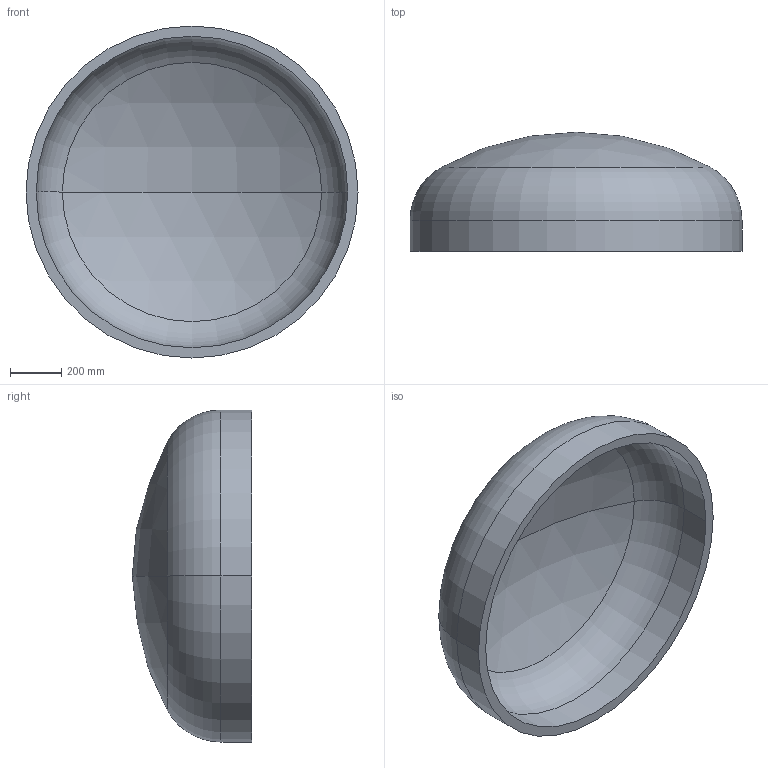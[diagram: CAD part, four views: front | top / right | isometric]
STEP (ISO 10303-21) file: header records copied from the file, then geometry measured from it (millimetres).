
FILE_DESCRIPTION (( 'STEP AP203' ), '1' );
FILE_NAME ('DIN 28013 Korbbogenform_-_Boden DIN 28013 - 1300 x 120 - I - s=40.step', '2016-07-01T09:51:06', ( '' ), ( '' ), 'SwSTEP 2.0', 'SolidWorks 2013', '' );
FILE_SCHEMA (( 'CONFIG_CONTROL_DESIGN' ));
Length unit declared in the file: millimetre
Products named in the file (1): DIN 28013 Korbbogenform_-_Boden DIN 28013 - 1300 x 120 - I - s=40
Bounding box: 1300 x 466.86 x 1300 mm (x, y, z)
Volume: 89623682.2 mm3; surface area: 4642870.2 mm2
Topology: 1 solids, 1 shells, 13 faces, 24 edges, 14 vertices
Faces by surface type: torus 4, cylinder 4, sphere 4, plane 1
Entity records: 407 total; most frequent: DIRECTION 72, CARTESIAN_POINT 52, ORIENTED_EDGE 48, AXIS2_PLACEMENT_3D 34, EDGE_CURVE 24, CIRCLE 20, VERTEX_POINT 14, EDGE_LOOP 14
